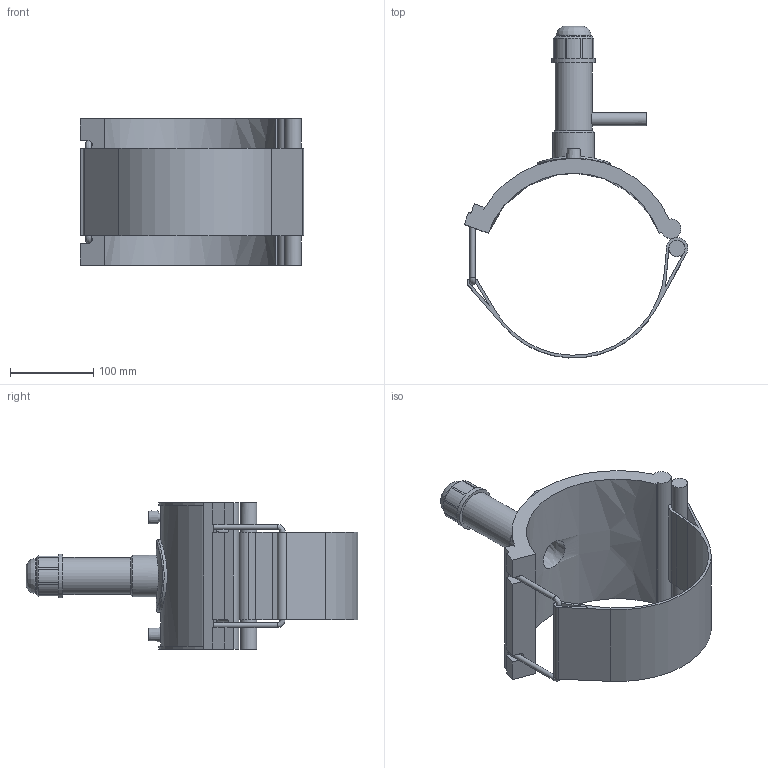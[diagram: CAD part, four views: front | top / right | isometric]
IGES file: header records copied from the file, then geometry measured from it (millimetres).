
Global section: file name: 5963BU03080005.ipt; native system: Autodesk Inventor 2019; preprocessor: unknown; author: KIM; date: 20210830.101508; units: millimetre
Bounding box: 268.63 x 398.85 x 176.02 mm (x, y, z)
Volume: 1294496.9 mm3; surface area: 297209.2 mm2
Topology: 2 solids, 2 shells, 122 faces, 304 edges, 195 vertices
Faces by surface type: plane 69, cylinder 29, revolution 12, cone 11, bspline 1
Full cylindrical faces by diameter (mm): 4 x2, 6.124 x2, 15.8 x1, 19.347 x1, 41.99 x1, 44.615 x1, 49.864 x1, 52.488 x1, 87.48 x1
